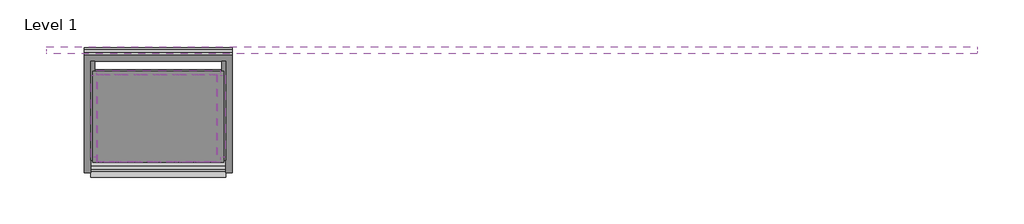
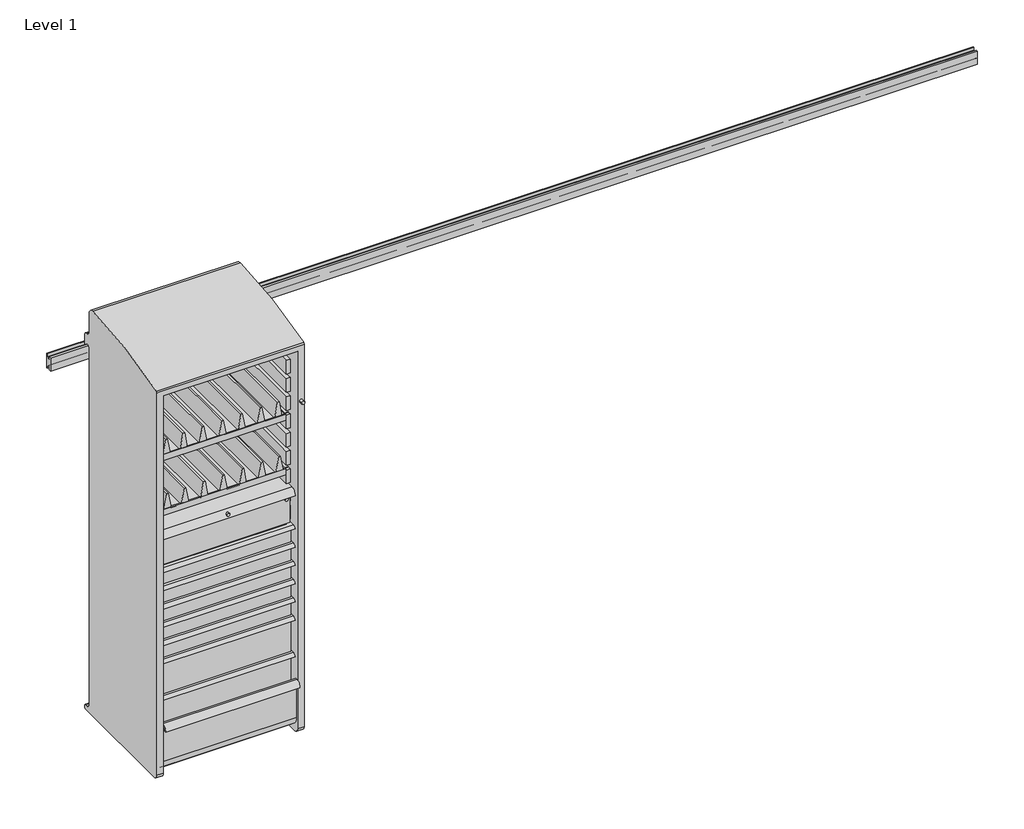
# One storey: 15 furniture elements.
"""IFC4 building model written with IfcOpenShell, lengths in millimetres."""

from ifc_helpers import new_model, si_unit, origin, place, context, project, spatial, transform, mapped, element, save
from components import furniture_ac9ddba1, furniture_b7b63fad, furniture_6e313942, furniture_118398c2, furniture_ee728fe0, furniture_08e813b6, a_3_f00946d5, a_3_ebba6047, a_3_03b68bd4, a_3_5a163b7d, a_3_23b1ce98, b_6_b5d62f69, b_6_69409394, b_6_de3e8c4b, standard_144w_a9847ba4

model = new_model("IFC4")

# Units and contexts
model_context = context("Model", 3, world=origin())
ifc_project = project(units=[si_unit("LENGTHUNIT", "METRE", prefix="MILLI")], contexts=[model_context])

# Site, building, storey
site = spatial("IfcSite", under=ifc_project)
building = spatial("IfcBuilding", under=site)
storey = spatial("IfcBuildingStorey", under=building, Name="Level 1", Elevation=0.0)

# Furniture
placement = place(None, origin())
furniture_shape = furniture_ac9ddba1(model_context)
element("IfcFurniture", 1, ObjectType="HermanMiller_CoStruc_CO561_LockerWithTambourDoor : 66\"H x 20\"D x 22\"W Wlock", at=placement, inside=storey, context=model_context, shape_type="MappedRepresentation", body=[
    mapped(furniture_shape, transform((439.2897361, -250.6165412, 0.0), x_axis=(1.0, 0.0, 0.0), y_axis=(0.0, 1.0, 0.0), z_axis=(0.0, 0.0, 1.0))),
])
furniture_2_shape = furniture_b7b63fad(model_context)
element("IfcFurniture", 2, ObjectType="HermanMiller_CoStruc_CO203_CTrayShelf : 14\"D x 20\"W", at=placement, inside=storey, context=model_context, shape_type="MappedRepresentation", body=[
    mapped(furniture_2_shape, transform((439.3456161, -273.7000612, 0.0), x_axis=(1.0, 0.0, 0.0), y_axis=(0.0, 1.0, 0.0), z_axis=(0.0, 0.0, 1.0))),
])
furniture_3_shape = furniture_6e313942(model_context)
element("IfcFurniture", 3, ObjectType="HermanMiller_CoStruc_CO203_CTrayShelf : 14\"D x 20\"W", at=placement, inside=storey, context=model_context, shape_type="MappedRepresentation", body=[
    mapped(furniture_3_shape, transform((439.3456161, -273.7000612, 0.0), x_axis=(1.0, 0.0, 0.0), y_axis=(0.0, 1.0, 0.0), z_axis=(0.0, 0.0, 1.0))),
])
furniture_4_shape = furniture_118398c2(model_context)
element("IfcFurniture", 4, ObjectType="HermanMiller_CoStruc_CO242_Subdivider Vane : 2 5/8\"Hx13 3/4\"D x 18 1/2\"W", at=placement, inside=storey, context=model_context, shape_type="MappedRepresentation", body=[
    mapped(furniture_4_shape, transform((435.8746677, -282.8440612, 0.0), x_axis=(1.0, 0.0, 0.0), y_axis=(0.0, 1.0, 0.0), z_axis=(0.0, 0.0, 1.0))),
])
furniture_5_shape = furniture_ee728fe0(model_context)
element("IfcFurniture", 5, ObjectType="HermanMiller_CoStruc_CO242_Subdivider Vane : 2 5/8\"Hx13 3/4\"D x 18 1/2\"W", at=placement, inside=storey, context=model_context, shape_type="MappedRepresentation", body=[
    mapped(furniture_5_shape, transform((432.2627877, -281.3200612, 0.0), x_axis=(1.0, 0.0, 0.0), y_axis=(0.0, 1.0, 0.0), z_axis=(0.0, 0.0, 1.0))),
])
furniture_6_shape = furniture_08e813b6(model_context)
element("IfcFurniture", 6, ObjectType="HermanMiller_CoStruc_CO371_LockedDrawerWithLockableLid : B - 6\"H x 15\"D x 20\"W Lid Wlock", at=placement, inside=storey, context=model_context, shape_type="MappedRepresentation", body=[
    mapped(furniture_6_shape, transform((445.4731162, -286.4127612, 0.0), x_axis=(1.0, 0.0, 0.0), y_axis=(0.0, 1.0, 0.0), z_axis=(0.0, 0.0, 1.0))),
])
a_3_shape = a_3_f00946d5(model_context)
element("IfcFurniture", 7, ObjectType="HermanMiller_CoStruc_CO207_Drawer : A - 3", at=placement, inside=storey, context=model_context, shape_type="MappedRepresentation", body=[
    mapped(a_3_shape, transform((439.2782677, -286.4000612, 0.0), x_axis=(1.0, 0.0, 0.0), y_axis=(0.0, 1.0, 0.0), z_axis=(0.0, 0.0, 1.0))),
])
a_3_2_shape = a_3_ebba6047(model_context)
element("IfcFurniture", 8, ObjectType="HermanMiller_CoStruc_CO207_Drawer : A - 3", at=placement, inside=storey, context=model_context, shape_type="MappedRepresentation", body=[
    mapped(a_3_2_shape, transform((439.2782677, -286.4000612, 0.0), x_axis=(1.0, 0.0, 0.0), y_axis=(0.0, 1.0, 0.0), z_axis=(0.0, 0.0, 1.0))),
])
a_3_3_shape = a_3_03b68bd4(model_context)
element("IfcFurniture", 9, ObjectType="HermanMiller_CoStruc_CO207_Drawer : A - 3", at=placement, inside=storey, context=model_context, shape_type="MappedRepresentation", body=[
    mapped(a_3_3_shape, transform((439.2782677, -286.4000612, 0.0), x_axis=(1.0, 0.0, 0.0), y_axis=(0.0, 1.0, 0.0), z_axis=(0.0, 0.0, 1.0))),
])
a_3_4_shape = a_3_5a163b7d(model_context)
element("IfcFurniture", 10, ObjectType="HermanMiller_CoStruc_CO207_Drawer : A - 3", at=placement, inside=storey, context=model_context, shape_type="MappedRepresentation", body=[
    mapped(a_3_4_shape, transform((439.2782677, -286.4000612, 0.0), x_axis=(1.0, 0.0, 0.0), y_axis=(0.0, 1.0, 0.0), z_axis=(0.0, 0.0, 1.0))),
])
a_3_5_shape = a_3_23b1ce98(model_context)
element("IfcFurniture", 11, ObjectType="HermanMiller_CoStruc_CO207_Drawer : A - 3", at=placement, inside=storey, context=model_context, shape_type="MappedRepresentation", body=[
    mapped(a_3_5_shape, transform((439.2782677, -286.4000612, 0.0), x_axis=(1.0, 0.0, 0.0), y_axis=(0.0, 1.0, 0.0), z_axis=(0.0, 0.0, 1.0))),
])
b_6_shape = b_6_b5d62f69(model_context)
element("IfcFurniture", 12, ObjectType="HermanMiller_CoStruc_CO207_Drawer : B - 6", at=placement, inside=storey, context=model_context, shape_type="MappedRepresentation", body=[
    mapped(b_6_shape, transform((439.2782677, -286.4000612, 0.0), x_axis=(1.0, 0.0, 0.0), y_axis=(0.0, 1.0, 0.0), z_axis=(0.0, 0.0, 1.0))),
])
b_6_2_shape = b_6_69409394(model_context)
element("IfcFurniture", 13, ObjectType="HermanMiller_CoStruc_CO207_Drawer : B - 6", at=placement, inside=storey, context=model_context, shape_type="MappedRepresentation", body=[
    mapped(b_6_2_shape, transform((439.2782677, -286.4000612, 0.0), x_axis=(1.0, 0.0, 0.0), y_axis=(0.0, 1.0, 0.0), z_axis=(0.0, 0.0, 1.0))),
])
b_6_3_shape = b_6_de3e8c4b(model_context)
element("IfcFurniture", 14, ObjectType="HermanMiller_CoStruc_CO207_Drawer : B - 6", at=placement, inside=storey, context=model_context, shape_type="MappedRepresentation", body=[
    mapped(b_6_3_shape, transform((439.2782677, -286.4000612, 0.0), x_axis=(1.0, 0.0, 0.0), y_axis=(0.0, 1.0, 0.0), z_axis=(0.0, 0.0, 1.0))),
])
standard_144w_shape = standard_144w_a9847ba4(model_context)
element("IfcFurniture", 15, ObjectType="HermanMiller_CoStruc_CO282_StandardRail : Standard 144W", at=placement, inside=storey, context=model_context, shape_type="MappedRepresentation", body=[
    mapped(standard_144w_shape, transform((1896.1205525, 0.0, 0.0), x_axis=(1.0, 0.0, 0.0), y_axis=(0.0, 1.0, 0.0), z_axis=(0.0, 0.0, 1.0))),
])

save(model, "model.ifc")
